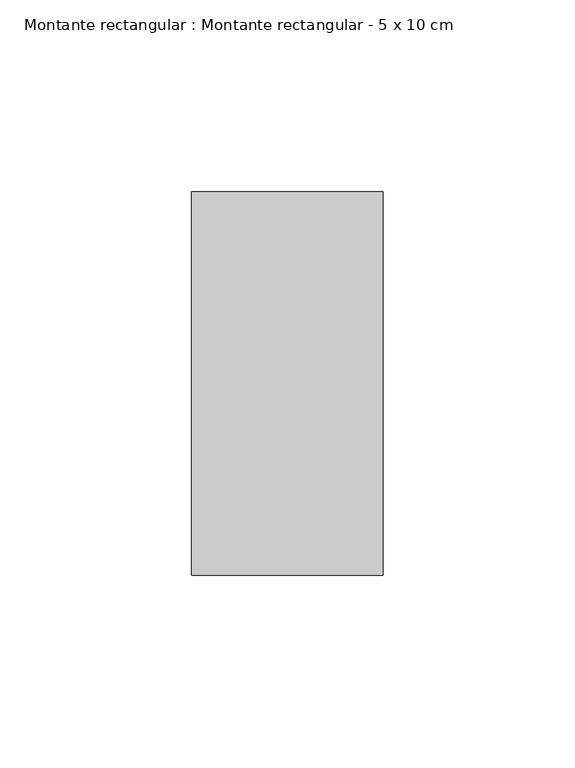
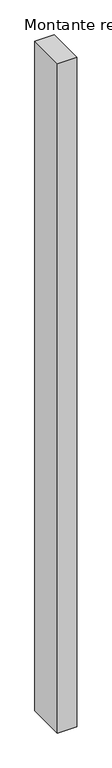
"""IFC4 building model written with IfcOpenShell, lengths in millimetres: member geometry, Montante rectangular : Montante rectangular - 5 x 10 cm."""

import ifcopenshell
import ifcopenshell.guid

model = None  # the IFC model being written
_history = None  # IfcOwnerHistory: only IFC2X3 demands one
_inside = {}  # id of a spatial element -> (the spatial element, [elements in it])
_under = {}  # id of a project, library or spatial element -> (it, [spatial elements below it])
_declared = {}  # id of a project -> (the project, [libraries it declares])
_typed = {}  # id of a type object -> (the type object, [elements of that type])
_made_of = {}  # id of a material, layer set ... -> (it, [elements and type objects made of it])


def new_model(schema):
    """Start an empty IFC model of exactly this schema.

    Asked for "IFC4X3", IfcOpenShell would pick the latest addendum, in which some entities
    have other attributes; the version numbers below select the first issue.
    IFC2X3 requires an IfcOwnerHistory on every rooted entity: one is made here for all.
    """
    global model, _history
    if schema == "IFC4X3":
        model = ifcopenshell.file(schema_version=(4, 3, 0, 0))
    else:
        model = ifcopenshell.file(schema=schema)
    _inside.clear()
    _under.clear()
    _declared.clear()
    _typed.clear()
    _made_of.clear()
    _history = None
    if model.schema == "IFC2X3":
        org = make("IfcOrganization", Name="unknown")
        user = make(
            "IfcPersonAndOrganization",
            ThePerson=make("IfcPerson", FamilyName="unknown"),
            TheOrganization=org,
        )
        app = make(
            "IfcApplication",
            ApplicationDeveloper=org,
            Version="unknown",
            ApplicationFullName="unknown",
            ApplicationIdentifier="unknown",
        )
        _history = make(
            "IfcOwnerHistory",
            OwningUser=user,
            OwningApplication=app,
            ChangeAction="ADDED",
            CreationDate=0,
        )
    return model


def make(cls, **values):
    """One entity of the class cls with the attributes given. An attribute that is None is left unset."""
    return model.create_entity(
        cls, **{name: value for name, value in values.items() if value is not None}
    )


def rooted(cls, **values):
    """An entity with a GlobalId (a new one), such as an element, a storey or a relation."""
    return make(cls, GlobalId=ifcopenshell.guid.new(), OwnerHistory=_history, **values)


def si_unit(unit_type, name, prefix=None):
    """IfcSIUnit, for example si_unit("LENGTHUNIT", "METRE", prefix="MILLI")."""
    return make("IfcSIUnit", UnitType=unit_type, Prefix=prefix, Name=name)


def assignment(units):
    """IfcUnitAssignment: the units of a project."""
    return None if units is None else make("IfcUnitAssignment", Units=units)


def point(xyz):
    """IfcCartesianPoint."""
    return None if xyz is None else make("IfcCartesianPoint", Coordinates=xyz)


def direction(xyz):
    """IfcDirection."""
    return None if xyz is None else make("IfcDirection", DirectionRatios=xyz)


def frame(location, z_axis=None, x_axis=None):
    """IfcAxis2Placement3D, a coordinate frame: its origin and axes. An axis left out is left unset."""
    return make(
        "IfcAxis2Placement3D",
        Location=point(location),
        Axis=direction(z_axis),
        RefDirection=direction(x_axis),
    )


def origin():
    """The frame at (0, 0, 0) with its axes left unset."""
    return frame((0.0, 0.0, 0.0))


def place(relative_to, where):
    """IfcLocalPlacement: puts the frame where relative to a parent placement (None: the world)."""
    return make(
        "IfcLocalPlacement", PlacementRelTo=relative_to, RelativePlacement=where
    )


def context(
    kind, dimensions, precision=None, world=None, true_north=None, identifier=None
):
    """IfcGeometricRepresentationContext, for example the 3D "Model" context."""
    return make(
        "IfcGeometricRepresentationContext",
        ContextIdentifier=identifier,
        ContextType=kind,
        CoordinateSpaceDimension=dimensions,
        Precision=precision,
        WorldCoordinateSystem=world,
        TrueNorth=true_north,
    )


def project(units=None, contexts=None):
    """IfcProject with its units and contexts."""
    return rooted(
        "IfcProject",
        Name="project",
        RepresentationContexts=contexts,
        UnitsInContext=assignment(units),
    )


def spatial(cls, under=None, at=None, **own):
    """A site, building, storey or space (cls), placed at a placement, below another one or the project."""
    s = rooted(cls, ObjectPlacement=at, **own)
    if under is not None:
        _under.setdefault(under.id(), (under, []))[1].append(s)
    return s


def polyline(points):
    """IfcPolyline through the points."""
    return make("IfcPolyline", Points=[point(p) for p in points])


def outline(outer, holes=None, kind="AREA"):
    """IfcArbitraryClosedProfileDef: a profile drawn as a closed curve; with holes, ...WithVoids."""
    if holes is None:
        return make("IfcArbitraryClosedProfileDef", ProfileType=kind, OuterCurve=outer)
    return make(
        "IfcArbitraryProfileDefWithVoids",
        ProfileType=kind,
        OuterCurve=outer,
        InnerCurves=holes,
    )


def extrude(swept, where, along, depth):
    """IfcExtrudedAreaSolid: the profile swept, set in the frame where, extruded along a direction by depth."""
    return make(
        "IfcExtrudedAreaSolid",
        SweptArea=swept,
        Position=where,
        ExtrudedDirection=direction(along),
        Depth=depth,
    )


def shape(context_of_items, identifier, shape_type, items):
    """IfcShapeRepresentation: the items that make up one representation, for example the "Body"."""
    return make(
        "IfcShapeRepresentation",
        ContextOfItems=context_of_items,
        RepresentationIdentifier=identifier,
        RepresentationType=shape_type,
        Items=items,
    )


def source(mapping_origin, context_of_items, identifier, shape_type, items):
    """IfcRepresentationMap: a shape defined once, which mapped items show again and again."""
    return make(
        "IfcRepresentationMap",
        MappingOrigin=mapping_origin,
        MappedRepresentation=shape(context_of_items, identifier, shape_type, items),
    )


def transform(
    local_origin,
    x_axis=None,
    y_axis=None,
    z_axis=None,
    scale=None,
    scale2=None,
    scale3=None,
    uniform=True,
):
    """IfcCartesianTransformationOperator3D, or its non-uniform kind. x_axis, y_axis, z_axis: its Axis1, 2, 3."""
    if uniform:
        return make(
            "IfcCartesianTransformationOperator3D",
            Axis1=direction(x_axis),
            Axis2=direction(y_axis),
            LocalOrigin=point(local_origin),
            Scale=scale,
            Axis3=direction(z_axis),
        )
    return make(
        "IfcCartesianTransformationOperator3DnonUniform",
        Axis1=direction(x_axis),
        Axis2=direction(y_axis),
        LocalOrigin=point(local_origin),
        Scale=scale,
        Axis3=direction(z_axis),
        Scale2=scale2,
        Scale3=scale3,
    )


def mapped(mapping_source, mapping_target):
    """IfcMappedItem: shows the shape of a source again, moved by a transform."""
    return make(
        "IfcMappedItem", MappingSource=mapping_source, MappingTarget=mapping_target
    )


def made_of(thing, what):
    """Note that an element or type object is made of a material, layer set ...; save() writes the relation."""
    if what is not None:
        _made_of.setdefault(what.id(), (what, []))[1].append(thing)
    return thing


def element(
    cls,
    number,
    at=None,
    inside=None,
    cuts=None,
    type_object=None,
    material=None,
    context=None,
    identifier="Body",
    shape_type=None,
    held_by="IfcProductDefinitionShape",
    body=None,
    shapes=None,
    **own,
):
    """One element of the class cls, such as IfcWall. Its Tag is "e" and its number.

    at: its placement. inside: the storey or other place that contains it. cuts: it is an
    opening in that element (IfcRelVoidsElement). A single representation is given by context,
    identifier, shape_type and body (its items); several are given by shapes. held_by: the class
    of the entity that holds the representations. save() writes the other relations.
    """
    e = rooted(cls, Tag="e%d" % number, ObjectPlacement=at, **own)
    if body is not None:
        shapes = [shape(context, identifier, shape_type, body)]
    if shapes is not None:
        e.Representation = make(held_by, Representations=shapes)
    if inside is not None:
        _inside.setdefault(inside.id(), (inside, []))[1].append(e)
    if cuts is not None:
        rooted(
            "IfcRelVoidsElement", RelatingBuildingElement=cuts, RelatedOpeningElement=e
        )
    if type_object is not None:
        _typed.setdefault(type_object.id(), (type_object, []))[1].append(e)
    return made_of(e, material)


def aggregate(whole, parts):
    """IfcRelAggregates: a whole, such as a stair, and the parts it consists of."""
    return rooted("IfcRelAggregates", RelatingObject=whole, RelatedObjects=parts)


def save(model, path):
    """Write the relations noted so far, then the file.

    IfcRelAggregates (storeys below a building ...), IfcRelContainedInSpatialStructure (elements
    in a storey), IfcRelDefinesByType, IfcRelAssociatesMaterial and IfcRelDeclares: one each for
    every whole, place, type object, material and project.
    """
    for whole, parts in _under.values():
        aggregate(whole, parts)
    for where, things in _inside.values():
        rooted(
            "IfcRelContainedInSpatialStructure",
            RelatedElements=things,
            RelatingStructure=where,
        )
    for kind, things in _typed.values():
        rooted("IfcRelDefinesByType", RelatedObjects=things, RelatingType=kind)
    for what, things in _made_of.values():
        rooted("IfcRelAssociatesMaterial", RelatedObjects=things, RelatingMaterial=what)
    for by, libraries in _declared.values():
        rooted("IfcRelDeclares", RelatingContext=by, RelatedDefinitions=libraries)
    model.write(path)


def montante_rectangular_montante_rectangular_5_x_10_cm_51e284e7(model_context):
    return source(origin(), model_context, "Body", "SweptSolid", [
        extrude(outline(polyline([(25.0, 50.0), (25.0, -50.0), (-25.0, -50.0), (-25.0, 50.0), (25.0, 50.0)])), frame((0.0, 0.0, -1816.0852508), z_axis=(0.0, 0.0, 1.0), x_axis=(1.0, 0.0, 0.0)), (0.0, 0.0, 1.0), 1816.0852508),
    ])


if __name__ == "__main__":
    model = new_model("IFC4")
    model_context = context("Model", 3, world=origin())
    ifc_project = project(units=[si_unit("LENGTHUNIT", "METRE", prefix="MILLI")], contexts=[model_context])
    site = spatial("IfcSite", under=ifc_project)
    building = spatial("IfcBuilding", under=site)
    placement = place(None, origin())
    montante_rectangular_montante_rectangular_5_x_10_cm_shape = montante_rectangular_montante_rectangular_5_x_10_cm_51e284e7(model_context)
    element("IfcMember", 1, ObjectType="Montante rectangular : Montante rectangular - 5 x 10 cm", at=placement, inside=building, context=model_context, shape_type="MappedRepresentation", body=[
        mapped(montante_rectangular_montante_rectangular_5_x_10_cm_shape, transform((0.0, 0.0, 0.0), x_axis=(1.0, 0.0, 0.0), y_axis=(0.0, 1.0, 0.0), z_axis=(0.0, 0.0, 1.0))),
    ])
    save(model, "model.ifc")
